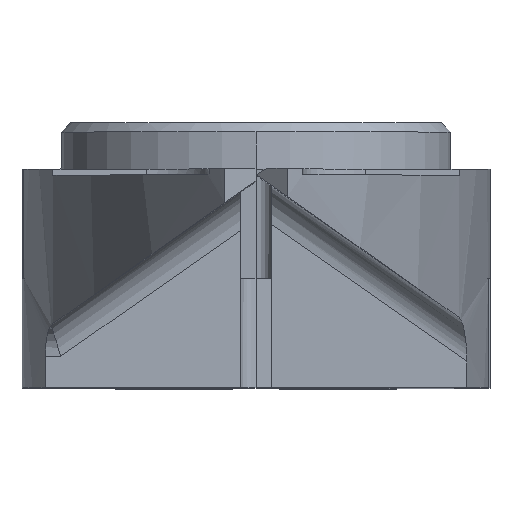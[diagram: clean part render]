
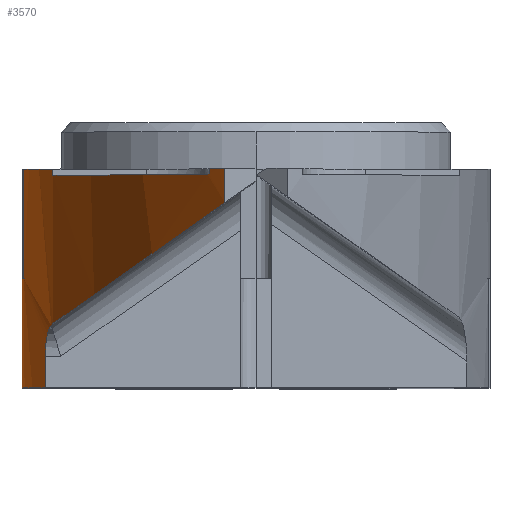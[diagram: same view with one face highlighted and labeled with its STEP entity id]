
A CAD part, top view. The second image highlights one B-rep face of the part: STEP entity #3570.
In plain terms, the highlighted cylindrical face has radius 30 mm (diameter 60 mm), a partial arc.
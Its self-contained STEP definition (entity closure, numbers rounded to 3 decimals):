
#14 = CIRCLE ( 'NONE', #2924, 30. ) ;
#37 = CARTESIAN_POINT ( 'NONE',  ( -6.509, 2.043, 11. ) ) ;
#136 = ORIENTED_EDGE ( 'NONE', *, *, #287, .F. ) ;
#143 = CARTESIAN_POINT ( 'NONE',  ( -6.563, 1.978, 10.793 ) ) ;
#170 = CARTESIAN_POINT ( 'NONE',  ( -1., 7., 22. ) ) ;
#197 = LINE ( 'NONE', #4630, #3156 ) ;
#207 = CARTESIAN_POINT ( 'NONE',  ( -6.509, 6.9, 11. ) ) ;
#258 = EDGE_CURVE ( 'NONE', #2236, #633, #2489, .T. ) ;
#274 = ORIENTED_EDGE ( 'NONE', *, *, #258, .F. ) ;
#287 = EDGE_CURVE ( 'NONE', #3246, #1321, #666, .T. ) ;
#350 = CARTESIAN_POINT ( 'NONE',  ( 22.5, 7., 3.352 ) ) ;
#393 = ORIENTED_EDGE ( 'NONE', *, *, #3087, .T. ) ;
#397 = VERTEX_POINT ( 'NONE', #1490 ) ;
#441 = CARTESIAN_POINT ( 'NONE',  ( -6.509, 7., 11. ) ) ;
#498 = B_SPLINE_CURVE_WITH_KNOTS ( 'NONE', 3,
 ( #2588, #1795, #3358, #1019, #3750, #1420 ),
 .UNSPECIFIED., .F., .F.,
 ( 4, 2, 4 ),
 ( 0., 0.001, 0.001 ),
 .UNSPECIFIED. ) ;
#633 = VERTEX_POINT ( 'NONE', #2992 ) ;
#658 = AXIS2_PLACEMENT_3D ( 'NONE', #3061, #736, #3465 ) ;
#666 = LINE ( 'NONE', #4819, #781 ) ;
#686 = EDGE_CURVE ( 'NONE', #3655, #3475, #2208, .T. ) ;
#705 = VECTOR ( 'NONE', #1966, 1000. ) ;
#721 = DIRECTION ( 'NONE',  ( 0., 0., 1. ) ) ;
#736 = DIRECTION ( 'NONE',  ( 0., -1., 0. ) ) ;
#773 = CARTESIAN_POINT ( 'NONE',  ( -1., 5.9, 22. ) ) ;
#781 = VECTOR ( 'NONE', #3720, 1000. ) ;
#855 = CARTESIAN_POINT ( 'NONE',  ( -6.509, 2.043, 11. ) ) ;
#955 = DIRECTION ( 'NONE',  ( 0., -1., 0. ) ) ;
#997 = DIRECTION ( 'NONE',  ( 0., -1., 0. ) ) ;
#1019 = CARTESIAN_POINT ( 'NONE',  ( -6.668, 1.811, 10.372 ) ) ;
#1025 = VERTEX_POINT ( 'NONE', #4080 ) ;
#1038 = EDGE_CURVE ( 'NONE', #4259, #397, #2028, .T. ) ;
#1092 = ORIENTED_EDGE ( 'NONE', *, *, #2593, .T. ) ;
#1117 = AXIS2_PLACEMENT_3D ( 'NONE', #4217, #1504, #4594 ) ;
#1145 = VECTOR ( 'NONE', #1157, 1000. ) ;
#1152 = CARTESIAN_POINT ( 'NONE',  ( -5.448, 2.785, 15.022 ) ) ;
#1157 = DIRECTION ( 'NONE',  ( 0., -1., 0. ) ) ;
#1321 = VERTEX_POINT ( 'NONE', #2941 ) ;
#1383 = ORIENTED_EDGE ( 'NONE', *, *, #2996, .T. ) ;
#1420 = CARTESIAN_POINT ( 'NONE',  ( -6.563, 1.978, 10.793 ) ) ;
#1444 = LINE ( 'NONE', #4475, #3515 ) ;
#1459 = CARTESIAN_POINT ( 'NONE',  ( -1.547, 6.8, 21.289 ) ) ;
#1490 = CARTESIAN_POINT ( 'NONE',  ( -7.5, 0., 3.352 ) ) ;
#1504 = DIRECTION ( 'NONE',  ( 0., 1., 0. ) ) ;
#1510 = EDGE_CURVE ( 'NONE', #4259, #3134, #197, .T. ) ;
#1695 = VECTOR ( 'NONE', #955, 1000. ) ;
#1777 = VERTEX_POINT ( 'NONE', #4304 ) ;
#1795 = CARTESIAN_POINT ( 'NONE',  ( -6.754, 1.232, 10. ) ) ;
#1966 = DIRECTION ( 'NONE',  ( 0., 1., 0. ) ) ;
#1987 = VERTEX_POINT ( 'NONE', #3308 ) ;
#2028 = CIRCLE ( 'NONE', #4733, 30. ) ;
#2191 = ORIENTED_EDGE ( 'NONE', *, *, #3656, .F. ) ;
#2194 = DIRECTION ( 'NONE',  ( 0., 1., 0. ) ) ;
#2208 = LINE ( 'NONE', #4834, #1145 ) ;
#2236 = VERTEX_POINT ( 'NONE', #855 ) ;
#2242 = DIRECTION ( 'NONE',  ( 0., -1., 0. ) ) ;
#2267 = CARTESIAN_POINT ( 'NONE',  ( -1.516, 6.826, 21.331 ) ) ;
#2321 = CARTESIAN_POINT ( 'NONE',  ( -6.754, 1., 10. ) ) ;
#2392 = CARTESIAN_POINT ( 'NONE',  ( -1.5, 6.839, 21.352 ) ) ;
#2489 = B_SPLINE_CURVE_WITH_KNOTS ( 'NONE', 3,
 ( #4108, #3603, #4211, #143 ),
 .UNSPECIFIED., .F., .F.,
 ( 4, 4 ),
 ( 0., 0. ),
 .UNSPECIFIED. ) ;
#2588 = CARTESIAN_POINT ( 'NONE',  ( -6.754, 1., 10. ) ) ;
#2593 = EDGE_CURVE ( 'NONE', #2236, #1987, #3678, .T. ) ;
#2625 =( BOUNDED_CURVE ( )  B_SPLINE_CURVE ( 3, ( #1459, #3005, #2267, #4951 ),
 .UNSPECIFIED., .F., .F. ) 
 B_SPLINE_CURVE_WITH_KNOTS ( ( 4, 4 ),
 ( 3.782, 3.785 ),
 .UNSPECIFIED. ) 
 CURVE ( )  GEOMETRIC_REPRESENTATION_ITEM ( )  RATIONAL_B_SPLINE_CURVE ( ( 1., 1., 1., 1. ) ) 
 REPRESENTATION_ITEM ( '' )  );
#2669 = LINE ( 'NONE', #3891, #705 ) ;
#2785 = CYLINDRICAL_SURFACE ( 'NONE', #1117, 30. ) ;
#2871 = ORIENTED_EDGE ( 'NONE', *, *, #3335, .F. ) ;
#2911 = CIRCLE ( 'NONE', #3095, 30. ) ;
#2924 = AXIS2_PLACEMENT_3D ( 'NONE', #3343, #997, #3728 ) ;
#2941 = CARTESIAN_POINT ( 'NONE',  ( -1.5, 7., 21.352 ) ) ;
#2984 = ORIENTED_EDGE ( 'NONE', *, *, #3099, .T. ) ;
#2992 = CARTESIAN_POINT ( 'NONE',  ( -6.563, 1.978, 10.793 ) ) ;
#2996 = EDGE_CURVE ( 'NONE', #3237, #3655, #2911, .T. ) ;
#3005 = CARTESIAN_POINT ( 'NONE',  ( -1.531, 6.813, 21.31 ) ) ;
#3047 = DIRECTION ( 'NONE',  ( 0., -1., 0. ) ) ;
#3061 = CARTESIAN_POINT ( 'NONE',  ( 22.5, 3.5, 3.352 ) ) ;
#3087 = EDGE_CURVE ( 'NONE', #4218, #1321, #3820, .T. ) ;
#3095 = AXIS2_PLACEMENT_3D ( 'NONE', #4530, #2242, #4926 ) ;
#3099 = EDGE_CURVE ( 'NONE', #3475, #4213, #4470, .T. ) ;
#3105 = CARTESIAN_POINT ( 'NONE',  ( -3.586, 4.089, 18.742 ) ) ;
#3134 = VERTEX_POINT ( 'NONE', #2321 ) ;
#3156 = VECTOR ( 'NONE', #3454, 1000. ) ;
#3197 = ORIENTED_EDGE ( 'NONE', *, *, #3367, .T. ) ;
#3237 = VERTEX_POINT ( 'NONE', #441 ) ;
#3246 = VERTEX_POINT ( 'NONE', #2392 ) ;
#3255 = ORIENTED_EDGE ( 'NONE', *, *, #4354, .T. ) ;
#3308 = CARTESIAN_POINT ( 'NONE',  ( -1., 5.9, 22. ) ) ;
#3335 = EDGE_CURVE ( 'NONE', #3237, #1777, #4765, .T. ) ;
#3343 = CARTESIAN_POINT ( 'NONE',  ( 22.5, 6.8, 3.352 ) ) ;
#3358 = CARTESIAN_POINT ( 'NONE',  ( -6.736, 1.458, 10.082 ) ) ;
#3367 = EDGE_CURVE ( 'NONE', #1987, #4218, #1444, .T. ) ;
#3381 = CARTESIAN_POINT ( 'NONE',  ( -7.452, 3.5, 5.046 ) ) ;
#3436 = EDGE_CURVE ( 'NONE', #3134, #633, #498, .T. ) ;
#3454 = DIRECTION ( 'NONE',  ( 0., 1., 0. ) ) ;
#3465 = DIRECTION ( 'NONE',  ( 0., 0., 1. ) ) ;
#3475 = VERTEX_POINT ( 'NONE', #3381 ) ;
#3515 = VECTOR ( 'NONE', #2194, 1000. ) ;
#3570 = ADVANCED_FACE ( 'NONE', ( #4956 ), #2785, .T. ) ;
#3603 = CARTESIAN_POINT ( 'NONE',  ( -6.528, 2.029, 10.929 ) ) ;
#3623 = EDGE_CURVE ( 'NONE', #397, #4213, #2669, .T. ) ;
#3655 = VERTEX_POINT ( 'NONE', #4533 ) ;
#3656 = EDGE_CURVE ( 'NONE', #1025, #3246, #2625, .T. ) ;
#3678 =( BOUNDED_CURVE ( )  B_SPLINE_CURVE ( 3, ( #37, #1152, #3105, #773 ),
 .UNSPECIFIED., .F., .F. ) 
 B_SPLINE_CURVE_WITH_KNOTS ( ( 4, 4 ),
 ( 3.399, 3.812 ),
 .UNSPECIFIED. ) 
 CURVE ( )  GEOMETRIC_REPRESENTATION_ITEM ( )  RATIONAL_B_SPLINE_CURVE ( ( 1., 0.986, 0.986, 1. ) ) 
 REPRESENTATION_ITEM ( '' )  );
#3720 = DIRECTION ( 'NONE',  ( 0., 1., 0. ) ) ;
#3728 = DIRECTION ( 'NONE',  ( 0., 0., 1. ) ) ;
#3735 = EDGE_LOOP ( 'NONE', ( #274, #1092, #3197, #393, #136, #2191, #3255, #2871, #1383, #4271, #2984, #4767, #4274, #4149, #4175 ) ) ;
#3750 = CARTESIAN_POINT ( 'NONE',  ( -6.619, 1.932, 10.573 ) ) ;
#3766 = DIRECTION ( 'NONE',  ( 0., 0., 1. ) ) ;
#3820 = CIRCLE ( 'NONE', #4912, 30. ) ;
#3838 = DIRECTION ( 'NONE',  ( 0., -1., 0. ) ) ;
#3853 = CARTESIAN_POINT ( 'NONE',  ( 22.5, 0., 3.352 ) ) ;
#3891 = CARTESIAN_POINT ( 'NONE',  ( -7.5, 1.75, 3.352 ) ) ;
#4032 = CARTESIAN_POINT ( 'NONE',  ( -6.754, 0., 10. ) ) ;
#4080 = CARTESIAN_POINT ( 'NONE',  ( -1.547, 6.8, 21.289 ) ) ;
#4108 = CARTESIAN_POINT ( 'NONE',  ( -6.509, 2.043, 11. ) ) ;
#4149 = ORIENTED_EDGE ( 'NONE', *, *, #1510, .T. ) ;
#4175 = ORIENTED_EDGE ( 'NONE', *, *, #3436, .T. ) ;
#4211 = CARTESIAN_POINT ( 'NONE',  ( -6.545, 2.008, 10.86 ) ) ;
#4213 = VERTEX_POINT ( 'NONE', #4388 ) ;
#4217 = CARTESIAN_POINT ( 'NONE',  ( 22.5, 0., 3.352 ) ) ;
#4218 = VERTEX_POINT ( 'NONE', #170 ) ;
#4259 = VERTEX_POINT ( 'NONE', #4032 ) ;
#4271 = ORIENTED_EDGE ( 'NONE', *, *, #686, .T. ) ;
#4274 = ORIENTED_EDGE ( 'NONE', *, *, #1038, .F. ) ;
#4304 = CARTESIAN_POINT ( 'NONE',  ( -6.509, 6.8, 11. ) ) ;
#4354 = EDGE_CURVE ( 'NONE', #1025, #1777, #14, .T. ) ;
#4388 = CARTESIAN_POINT ( 'NONE',  ( -7.5, 3.5, 3.352 ) ) ;
#4470 = CIRCLE ( 'NONE', #658, 30. ) ;
#4475 = CARTESIAN_POINT ( 'NONE',  ( -1., 3.5, 22. ) ) ;
#4530 = CARTESIAN_POINT ( 'NONE',  ( 22.5, 7., 3.352 ) ) ;
#4533 = CARTESIAN_POINT ( 'NONE',  ( -7.452, 7., 5.046 ) ) ;
#4594 = DIRECTION ( 'NONE',  ( 0., 0., 1. ) ) ;
#4630 = CARTESIAN_POINT ( 'NONE',  ( -6.754, 3.5, 10. ) ) ;
#4733 = AXIS2_PLACEMENT_3D ( 'NONE', #3853, #3838, #3766 ) ;
#4765 = LINE ( 'NONE', #207, #1695 ) ;
#4767 = ORIENTED_EDGE ( 'NONE', *, *, #3623, .F. ) ;
#4819 = CARTESIAN_POINT ( 'NONE',  ( -1.5, 6.92, 21.352 ) ) ;
#4834 = CARTESIAN_POINT ( 'NONE',  ( -7.452, 3.5, 5.046 ) ) ;
#4912 = AXIS2_PLACEMENT_3D ( 'NONE', #350, #3047, #721 ) ;
#4926 = DIRECTION ( 'NONE',  ( 0., 0., 1. ) ) ;
#4951 = CARTESIAN_POINT ( 'NONE',  ( -1.5, 6.839, 21.352 ) ) ;
#4956 = FACE_OUTER_BOUND ( 'NONE', #3735, .T. ) ;
